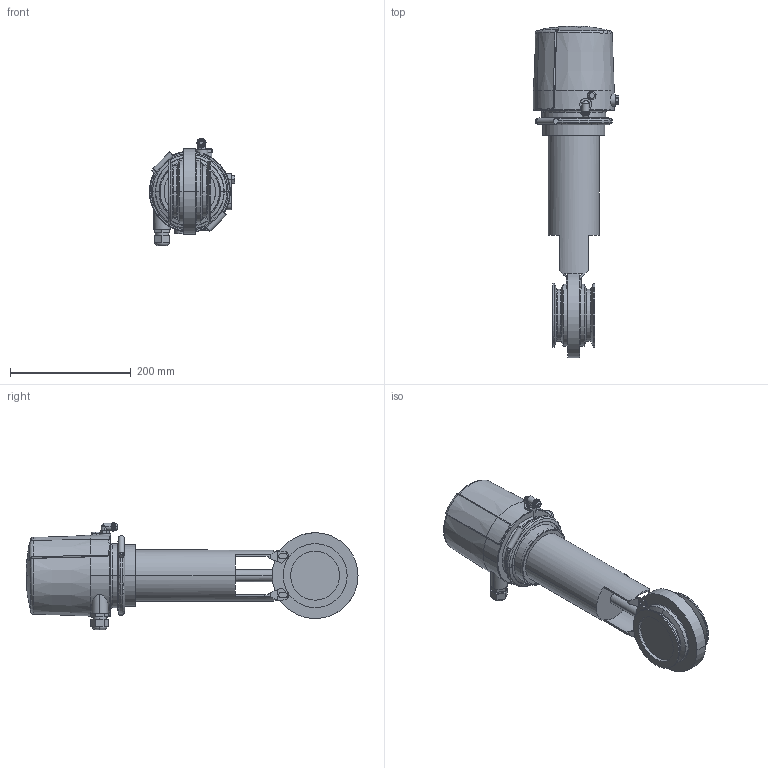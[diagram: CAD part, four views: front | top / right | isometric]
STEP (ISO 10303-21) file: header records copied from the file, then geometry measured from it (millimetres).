
FILE_DESCRIPTION(('Creo Elements/Direct Modeling STEP Export'),'2;1');
FILE_NAME('SV1-80-FZ-CU41T-12CL.stp','2012-09-10T15:20:34',(''),(''),'Creo Elements/Direct Modeling STEP processor for AP214 (Solid Model)','Creo Elements/Direct Modeling 17.0D 15-Jul-2011 (C) Parametric Technology GmbH','');
FILE_SCHEMA(('AUTOMOTIVE_DESIGN { 1 0 10303 214 1 1 1 1 }'));
Length unit declared in the file: millimetre
Products named in the file (3): CU41-mit-T-Adapter; SV1-80-FZ-12CL_Antrieb; SV1-80-FZ-CU41-12CL.stp
Assembly tree (2 placements, depth 2):
  SV1-80-FZ-CU41-12CL.stp
    SV1-80-FZ-12CL_Antrieb
    CU41-mit-T-Adapter
Bounding box: 141.4 x 549.61 x 177.6 mm (x, y, z)
Volume: 3732719 mm3; surface area: 285923.8 mm2
Topology: 2 solids, 8 shells, 410 faces, 1040 edges, 661 vertices
Faces by surface type: plane 178, cylinder 140, torus 53, cone 24, bspline 10, sphere 5
Entity records: 21055 total; most frequent: CARTESIAN_POINT 10616, ORIENTED_EDGE 2092, DIRECTION 1726, EDGE_CURVE 1038, VERTEX_POINT 661, AXIS2_PLACEMENT_3D 637, EDGE_LOOP 453, VECTOR 452
